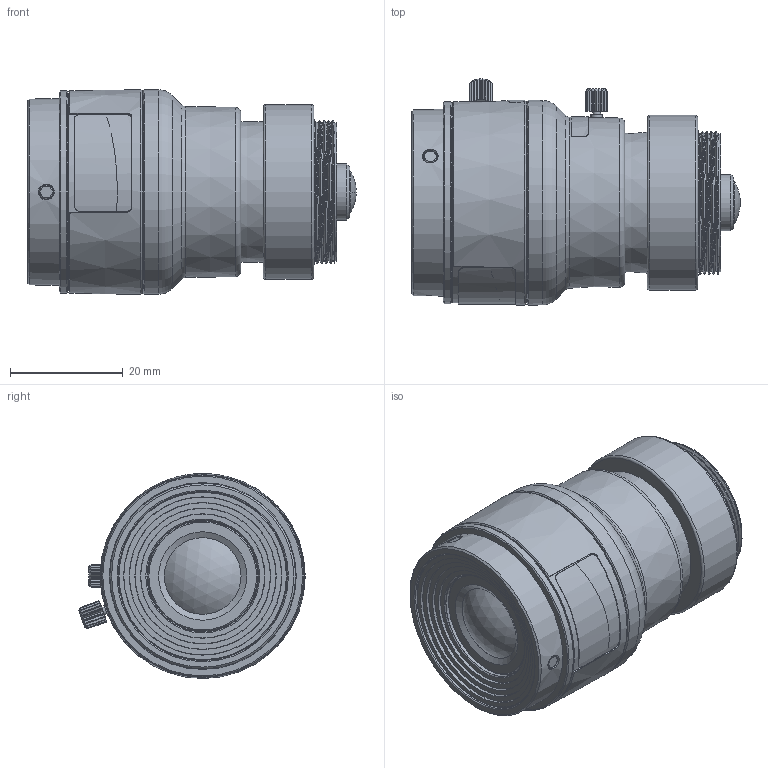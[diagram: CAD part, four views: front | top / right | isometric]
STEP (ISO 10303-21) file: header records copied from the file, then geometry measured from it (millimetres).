
FILE_DESCRIPTION(/* description */ ('STEP AP203'),/* implementation_level */ '2;1');
FILE_NAME(/* name */ 'MY110M',/* time_stamp */ '2024-10-02T06:58:33+02:00',/* author */ ('License CC BY-ND 4.0'),/* organization */ ('CADENAS'),/* preprocessor_version */ 'ST-DEVELOPER v19.3',/* originating_system */ 'PARTsolutions',/* authorisation */ ' ');
FILE_SCHEMA (('CONFIG_CONTROL_DESIGN','AP242_MANAGED_MODEL_BASED_3D_ENGINEERING_MIM_LF { 1 0 10303 442 3 1 4 }'));
Length unit declared in the file: millimetre
Products named in the file (2): MY110M; MY110M_PART1
Assembly tree (1 placements, depth 2):
  MY110M
    MY110M_PART1
Bounding box: 58.3 x 40.15 x 36.35 mm (x, y, z)
Volume: 43012.2 mm3; surface area: 9503.2 mm2
Topology: 1 solids, 7 shells, 313 faces, 780 edges, 512 vertices
Faces by surface type: plane 132, cylinder 84, cone 77, bspline 10, torus 9, sphere 1
Full cylindrical faces by diameter (mm): 1.4 x2, 2 x2, 2.5 x3, 2.8 x3, 7.4 x1, 9 x1, 9.2 x1, 10 x1, 13.5 x1, 13.6 x1, 19.5 x1, 24.541 x5, 30 x1, 31 x1, 35.024 x2
Entity records: 9850 total; most frequent: CARTESIAN_POINT 3217, ORIENTED_EDGE 1348, DIRECTION 1257, EDGE_CURVE 674, AXIS2_PLACEMENT_3D 526, VERTEX_POINT 474, EDGE_LOOP 402, FACE_BOUND 402
